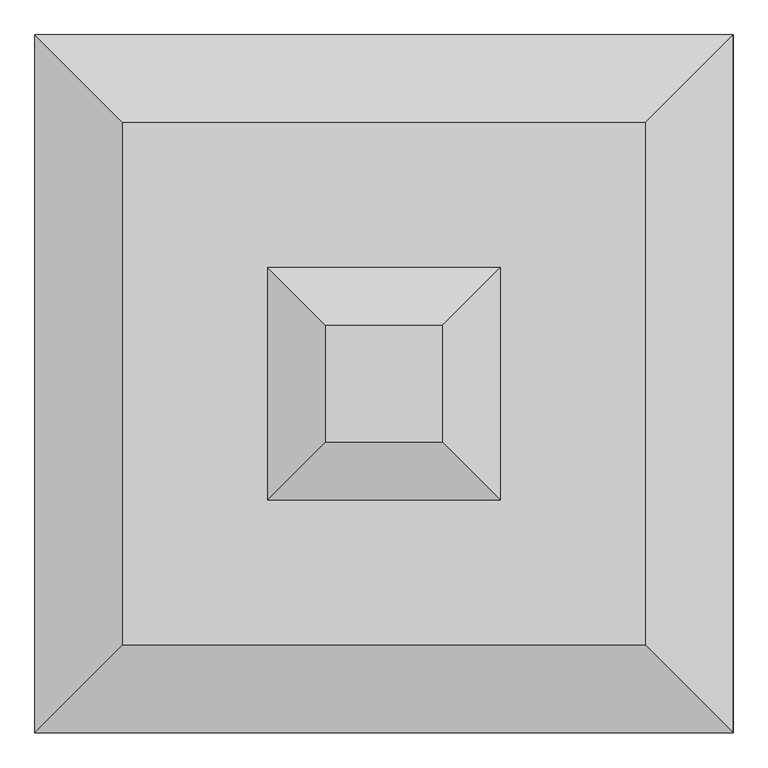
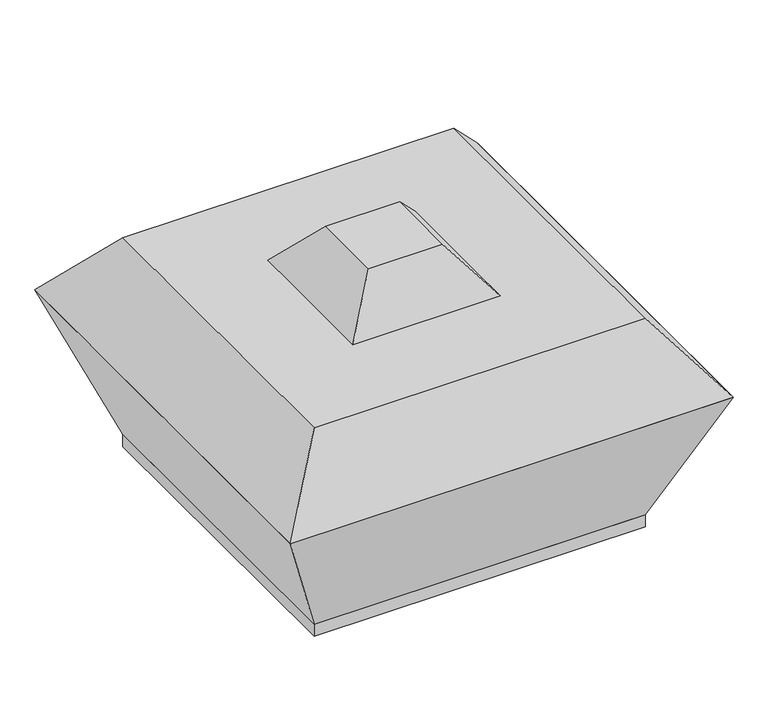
"""IFC4 building model written with IfcOpenShell, lengths in millimetres: proxy geometry, СВ_Вентилятор_КрышныйПрямоугольный_94-100_SVKR : SVKR 100/71.6D."""

from ifc_helpers import new_model, si_unit, origin, origin_with_axes, place, context, project, spatial, polyline, outline, extrude, faceted_brep, source, transform, mapped, element, save


def mechanical_equipment_77ae78ec(model_context):
    return source(origin(), model_context, "Body", "SolidModel", [
        faceted_brep([(-115.8333333, -115.8333333, 835.0), (115.8333333, -115.8333333, 835.0), (115.8333333, 115.8333333, 835.0), (-115.8333333, 115.8333333, 835.0), (-231.6666667, -231.6666667, 693.0), (-231.6666667, 231.6666667, 693.0), (231.6666667, 231.6666667, 693.0), (231.6666667, -231.6666667, 693.0)], [[[0, 1, 2, 3]], [[4, 5, 6, 7]], [[4, 7, 1, 0]], [[7, 6, 2, 1]], [[6, 5, 3, 2]], [[5, 4, 0, 3]]]),
        faceted_brep([(-695.0, -695.0, 475.3333333), (-695.0, 695.0, 475.3333333), (695.0, 695.0, 475.3333333), (695.0, -695.0, 475.3333333), (-520.0, -520.0, 693.0), (520.0, -520.0, 693.0), (520.0, 520.0, 693.0), (-520.0, 520.0, 693.0)], [[[0, 1, 2, 3]], [[4, 5, 6, 7]], [[5, 4, 0, 3]], [[6, 5, 3, 2]], [[7, 6, 2, 1]], [[4, 7, 1, 0]]]),
        faceted_brep([(695.0, 695.0, 475.3333333), (-695.0, 695.0, 475.3333333), (-695.0, -695.0, 475.3333333), (695.0, -695.0, 475.3333333), (520.0, 520.0, 40.0), (520.0, -520.0, 40.0), (-520.0, -520.0, 40.0), (-520.0, 520.0, 40.0)], [[[0, 1, 2, 3]], [[4, 5, 6, 7]], [[4, 7, 1, 0]], [[7, 6, 2, 1]], [[6, 5, 3, 2]], [[5, 4, 0, 3]]]),
        extrude(outline(polyline([(-520.0, -520.0), (-520.0, 520.0), (520.0, 520.0), (520.0, -520.0), (-520.0, -520.0)])), origin_with_axes(), (0.0, 0.0, 1.0), 40.0),
    ])


if __name__ == "__main__":
    model = new_model("IFC4")
    model_context = context("Model", 3, world=origin())
    ifc_project = project(units=[si_unit("LENGTHUNIT", "METRE", prefix="MILLI")], contexts=[model_context])
    site = spatial("IfcSite", under=ifc_project)
    building = spatial("IfcBuilding", under=site)
    placement = place(None, origin())
    mechanical_equipment_shape = mechanical_equipment_77ae78ec(model_context)
    element("IfcBuildingElementProxy", 1, Name="СВ_Вентилятор_КрышныйПрямоугольный_94-100_SVKR : SVKR 100/71.6D", ObjectType="СВ_Вентилятор_КрышныйПрямоугольный_94-100_SVKR : SVKR 100/71.6D", at=placement, inside=building, context=model_context, shape_type="MappedRepresentation", body=[
        mapped(mechanical_equipment_shape, transform((0.0, 0.0, 0.0), x_axis=(1.0, 0.0, 0.0), y_axis=(0.0, 1.0, 0.0), z_axis=(0.0, 0.0, 1.0))),
    ])
    save(model, "model.ifc")
